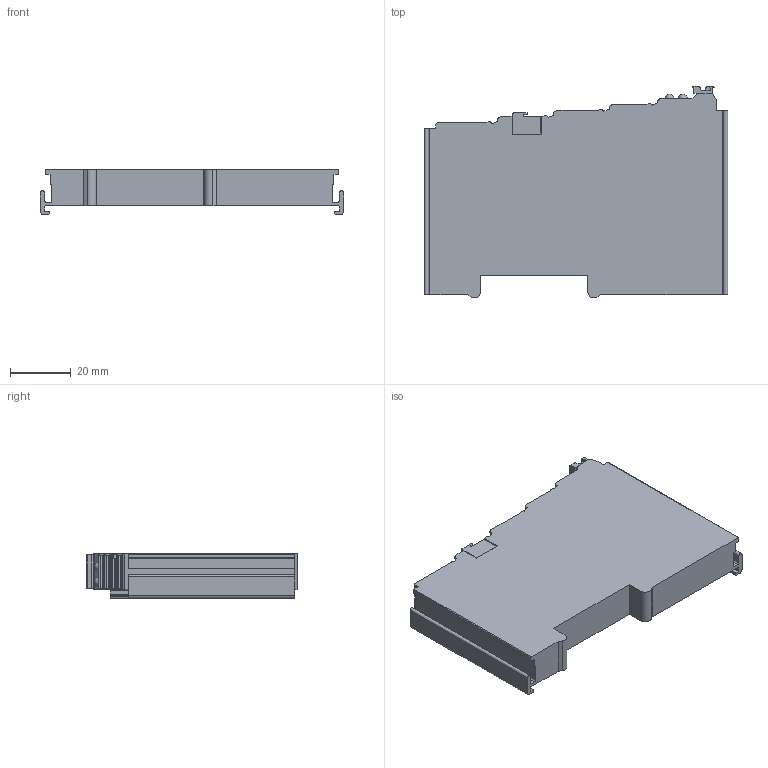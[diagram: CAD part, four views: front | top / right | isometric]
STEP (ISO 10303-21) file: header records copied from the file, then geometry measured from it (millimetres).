
FILE_DESCRIPTION( ( 'STEP AP214' ), '1' );
FILE_NAME( 'p:/temp/worker_46/temp/exporttempdir_1520_1152_vmub3/format_0/750-563.stp', '2021-05-24T09:15:54', ( 'License CC BY-ND 4.0' ), ( 'CADENAS' ), ' ', 'PARTsolutions', ' ' );
FILE_SCHEMA( ( 'AUTOMOTIVE_DESIGN { 1 0 10303 214 1 1 1 1 }' ) );
Length unit declared in the file: millimetre
Products named in the file (1): _750-563
Bounding box: 100 x 69.8 x 14.8 mm (x, y, z)
Volume: 66511.4 mm3; surface area: 18951.6 mm2
Topology: 1 solids, 1 shells, 301 faces, 820 edges, 538 vertices
Faces by surface type: plane 174, cylinder 103, cone 20, sphere 4
Full cylindrical faces by diameter (mm): 2.9 x4, 3.1 x4, 3.4 x4, 4.2 x4
Entity records: 11808 total; most frequent: CARTESIAN_POINT 1733, DIRECTION 1602, ORIENTED_EDGE 1576, EDGE_CURVE 788, AXIS2_PLACEMENT_3D 537, VERTEX_POINT 534, LINE 528, VECTOR 528
